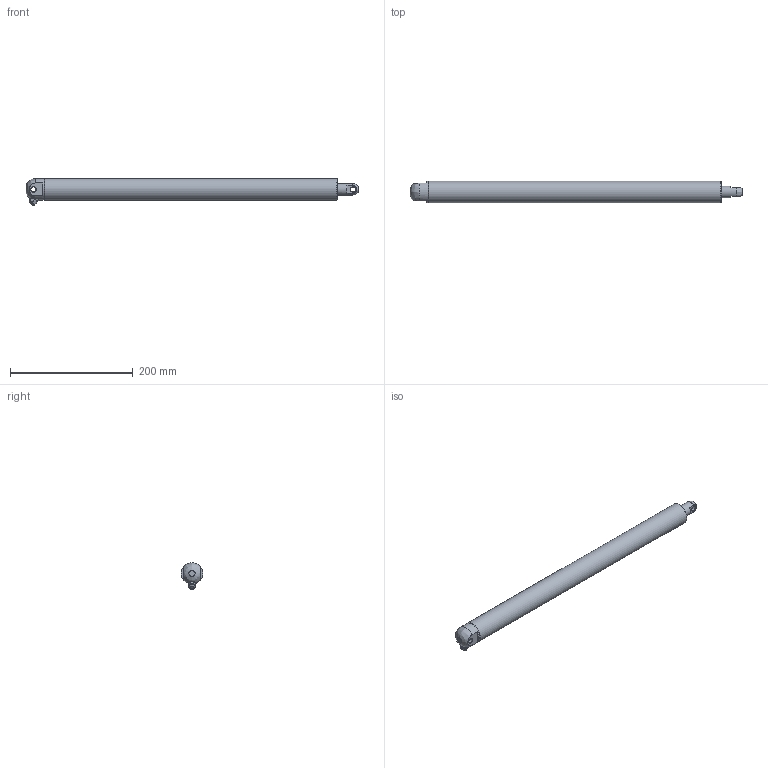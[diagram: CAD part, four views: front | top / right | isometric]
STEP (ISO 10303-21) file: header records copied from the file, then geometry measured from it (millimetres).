
FILE_DESCRIPTION( ( 'Unknown' ), '1' );
FILE_NAME( 'Z:/12¬ãµo³¡/Project/Automation/Linear Actuators/CAD/ELA35/STEP/ELA35300B.stp', 'Unknown', ( 'Unknown' ), ( 'Unknown' ), 'PSStep 10.0', 'Unknown', ' ' );
FILE_SCHEMA( ( 'AUTOMOTIVE_DESIGN { 1 0 10303 214 1 1 1 1 }' ) );
Length unit declared in the file: millimetre
Products named in the file (1): 1
Bounding box: 540 x 35 x 43.33 mm (x, y, z)
Volume: 130315.8 mm3; surface area: 107665.6 mm2
Topology: 1 solids, 2 shells, 61 faces, 149 edges, 97 vertices
Faces by surface type: plane 30, cylinder 21, cone 7, bspline 2, torus 1
Full cylindrical faces by diameter (mm): 8.1 x2, 10.8 x2, 19 x1, 31 x1, 35 x2
Entity records: 2428 total; most frequent: CARTESIAN_POINT 557, DIRECTION 296, ORIENTED_EDGE 250, EDGE_CURVE 125, AXIS2_PLACEMENT_3D 118, VERTEX_POINT 91, EDGE_LOOP 88, FACE_OUTER_BOUND 72
